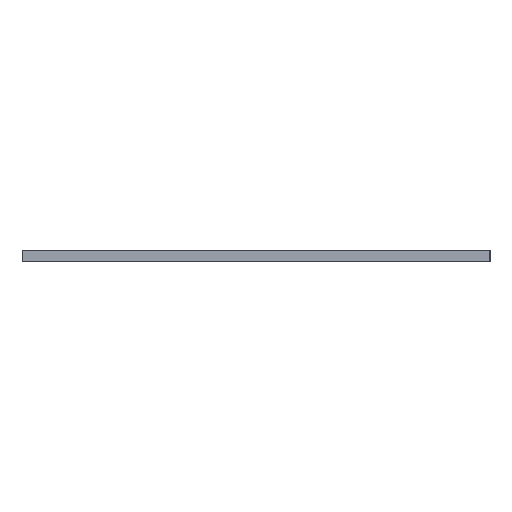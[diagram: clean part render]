
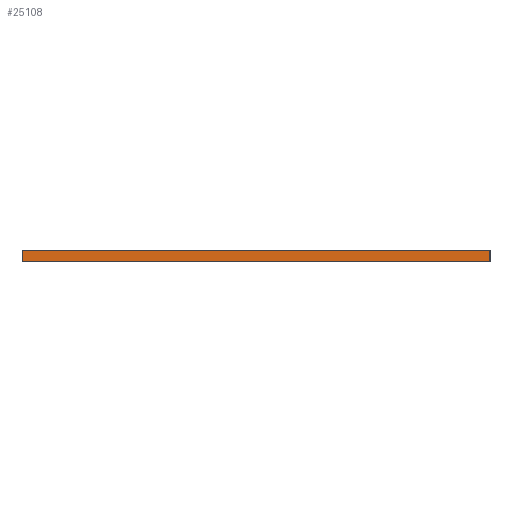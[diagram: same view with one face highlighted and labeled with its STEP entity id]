
A CAD part, left-side view. The second image highlights one B-rep face of the part: STEP entity #25108.
In plain terms, the highlighted planar face has unit normal (-1, 0, 0).
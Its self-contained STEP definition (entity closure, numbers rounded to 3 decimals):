
#567 = DIRECTION ( 'NONE',  ( 0., -1., 0. ) ) ;
#905 = LINE ( 'NONE', #13753, #25142 ) ;
#2542 = CARTESIAN_POINT ( 'NONE',  ( -40., -40., 2. ) ) ;
#4370 = CARTESIAN_POINT ( 'NONE',  ( -40., 40., 2. ) ) ;
#5148 = VERTEX_POINT ( 'NONE', #2542 ) ;
#5789 = DIRECTION ( 'NONE',  ( 0., 0., -1. ) ) ;
#6937 = FACE_OUTER_BOUND ( 'NONE', #25690, .T. ) ;
#8287 = VECTOR ( 'NONE', #31093, 1000. ) ;
#9882 = DIRECTION ( 'NONE',  ( 0., 0., -1. ) ) ;
#9915 = CARTESIAN_POINT ( 'NONE',  ( -40., -40., 0. ) ) ;
#11157 = VERTEX_POINT ( 'NONE', #9915 ) ;
#12230 = VERTEX_POINT ( 'NONE', #19548 ) ;
#12678 = EDGE_CURVE ( 'NONE', #12230, #24689, #18320, .T. ) ;
#12687 = ORIENTED_EDGE ( 'NONE', *, *, #14766, .F. ) ;
#12800 = EDGE_CURVE ( 'NONE', #24689, #11157, #905, .T. ) ;
#13753 = CARTESIAN_POINT ( 'NONE',  ( -40., 40., 0. ) ) ;
#14766 = EDGE_CURVE ( 'NONE', #5148, #11157, #26413, .T. ) ;
#14862 = DIRECTION ( 'NONE',  ( 0., 0., -1. ) ) ;
#15371 = DIRECTION ( 'NONE',  ( 1., 0., 0. ) ) ;
#15466 = CARTESIAN_POINT ( 'NONE',  ( -40., 40., 2. ) ) ;
#17886 = AXIS2_PLACEMENT_3D ( 'NONE', #4370, #15371, #14862 ) ;
#18055 = VECTOR ( 'NONE', #5789, 1000. ) ;
#18200 = CARTESIAN_POINT ( 'NONE',  ( -40., 40., 2. ) ) ;
#18320 = LINE ( 'NONE', #15466, #25681 ) ;
#19548 = CARTESIAN_POINT ( 'NONE',  ( -40., 40., 2. ) ) ;
#20127 = ORIENTED_EDGE ( 'NONE', *, *, #26891, .F. ) ;
#20439 = PLANE ( 'NONE',  #17886 ) ;
#20913 = LINE ( 'NONE', #18200, #8287 ) ;
#24689 = VERTEX_POINT ( 'NONE', #32500 ) ;
#25108 = ADVANCED_FACE ( 'NONE', ( #6937 ), #20439, .F. ) ;
#25142 = VECTOR ( 'NONE', #567, 1000. ) ;
#25681 = VECTOR ( 'NONE', #9882, 1000. ) ;
#25690 = EDGE_LOOP ( 'NONE', ( #28648, #12687, #20127, #30283 ) ) ;
#26413 = LINE ( 'NONE', #29124, #18055 ) ;
#26891 = EDGE_CURVE ( 'NONE', #12230, #5148, #20913, .T. ) ;
#28648 = ORIENTED_EDGE ( 'NONE', *, *, #12800, .T. ) ;
#29124 = CARTESIAN_POINT ( 'NONE',  ( -40., -40., 2. ) ) ;
#30283 = ORIENTED_EDGE ( 'NONE', *, *, #12678, .T. ) ;
#31093 = DIRECTION ( 'NONE',  ( 0., -1., 0. ) ) ;
#32500 = CARTESIAN_POINT ( 'NONE',  ( -40., 40., 0. ) ) ;
